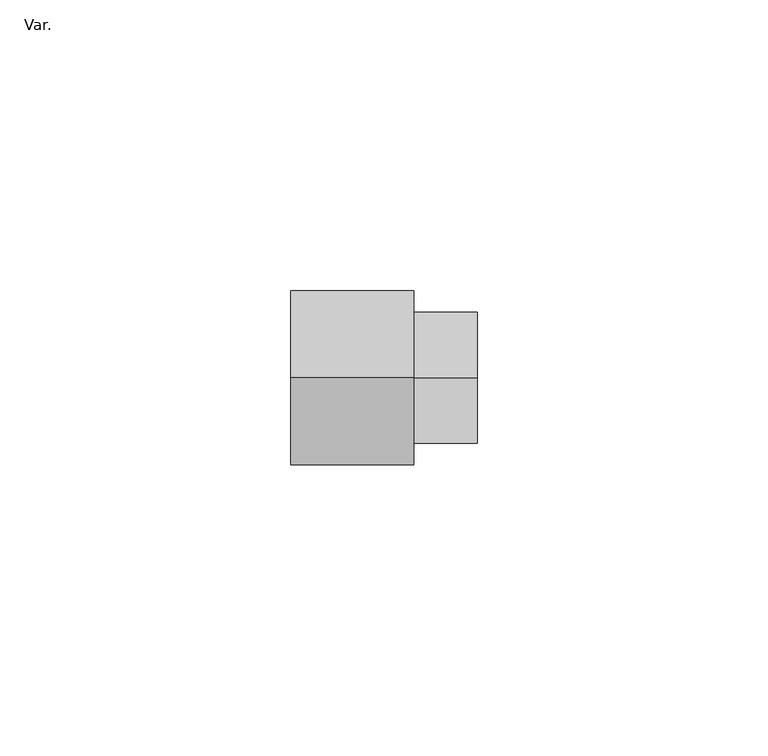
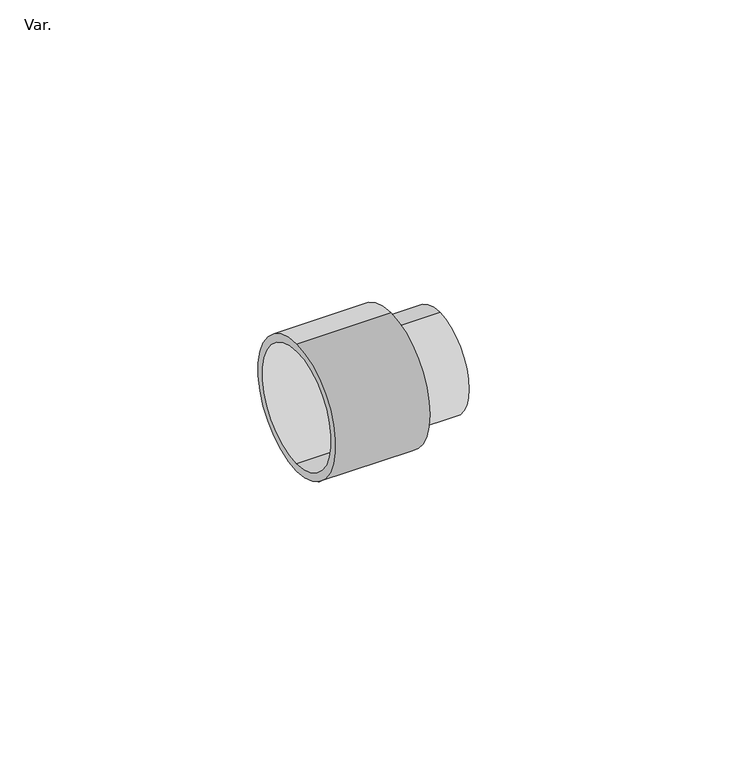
"""IFC4 building model written with IfcOpenShell, lengths in millimetres: pipe fitting geometry, AmancoWavin_ConexõesdeTubos_K5ZNãoUsarConectorMódulodeDistribuição : Var.."""

import ifcopenshell
import ifcopenshell.guid

model = None  # the IFC model being written
_history = None  # IfcOwnerHistory: only IFC2X3 demands one
_inside = {}  # id of a spatial element -> (the spatial element, [elements in it])
_under = {}  # id of a project, library or spatial element -> (it, [spatial elements below it])
_declared = {}  # id of a project -> (the project, [libraries it declares])
_typed = {}  # id of a type object -> (the type object, [elements of that type])
_made_of = {}  # id of a material, layer set ... -> (it, [elements and type objects made of it])


def new_model(schema):
    """Start an empty IFC model of exactly this schema.

    Asked for "IFC4X3", IfcOpenShell would pick the latest addendum, in which some entities
    have other attributes; the version numbers below select the first issue.
    IFC2X3 requires an IfcOwnerHistory on every rooted entity: one is made here for all.
    """
    global model, _history
    if schema == "IFC4X3":
        model = ifcopenshell.file(schema_version=(4, 3, 0, 0))
    else:
        model = ifcopenshell.file(schema=schema)
    _inside.clear()
    _under.clear()
    _declared.clear()
    _typed.clear()
    _made_of.clear()
    _history = None
    if model.schema == "IFC2X3":
        org = make("IfcOrganization", Name="unknown")
        user = make(
            "IfcPersonAndOrganization",
            ThePerson=make("IfcPerson", FamilyName="unknown"),
            TheOrganization=org,
        )
        app = make(
            "IfcApplication",
            ApplicationDeveloper=org,
            Version="unknown",
            ApplicationFullName="unknown",
            ApplicationIdentifier="unknown",
        )
        _history = make(
            "IfcOwnerHistory",
            OwningUser=user,
            OwningApplication=app,
            ChangeAction="ADDED",
            CreationDate=0,
        )
    return model


def make(cls, **values):
    """One entity of the class cls with the attributes given. An attribute that is None is left unset."""
    return model.create_entity(
        cls, **{name: value for name, value in values.items() if value is not None}
    )


def rooted(cls, **values):
    """An entity with a GlobalId (a new one), such as an element, a storey or a relation."""
    return make(cls, GlobalId=ifcopenshell.guid.new(), OwnerHistory=_history, **values)


def si_unit(unit_type, name, prefix=None):
    """IfcSIUnit, for example si_unit("LENGTHUNIT", "METRE", prefix="MILLI")."""
    return make("IfcSIUnit", UnitType=unit_type, Prefix=prefix, Name=name)


def assignment(units):
    """IfcUnitAssignment: the units of a project."""
    return None if units is None else make("IfcUnitAssignment", Units=units)


def point(xyz):
    """IfcCartesianPoint."""
    return None if xyz is None else make("IfcCartesianPoint", Coordinates=xyz)


def direction(xyz):
    """IfcDirection."""
    return None if xyz is None else make("IfcDirection", DirectionRatios=xyz)


def frame(location, z_axis=None, x_axis=None):
    """IfcAxis2Placement3D, a coordinate frame: its origin and axes. An axis left out is left unset."""
    return make(
        "IfcAxis2Placement3D",
        Location=point(location),
        Axis=direction(z_axis),
        RefDirection=direction(x_axis),
    )


def frame_2d(location, x_axis=None):
    """IfcAxis2Placement2D, a coordinate frame in the plane: its origin and x axis."""
    return make(
        "IfcAxis2Placement2D", Location=point(location), RefDirection=direction(x_axis)
    )


def origin():
    """The frame at (0, 0, 0) with its axes left unset."""
    return frame((0.0, 0.0, 0.0))


def origin_2d():
    """The frame at (0, 0) in the plane with its x axis left unset."""
    return frame_2d((0.0, 0.0))


def place(relative_to, where):
    """IfcLocalPlacement: puts the frame where relative to a parent placement (None: the world)."""
    return make(
        "IfcLocalPlacement", PlacementRelTo=relative_to, RelativePlacement=where
    )


def context(
    kind, dimensions, precision=None, world=None, true_north=None, identifier=None
):
    """IfcGeometricRepresentationContext, for example the 3D "Model" context."""
    return make(
        "IfcGeometricRepresentationContext",
        ContextIdentifier=identifier,
        ContextType=kind,
        CoordinateSpaceDimension=dimensions,
        Precision=precision,
        WorldCoordinateSystem=world,
        TrueNorth=true_north,
    )


def project(units=None, contexts=None):
    """IfcProject with its units and contexts."""
    return rooted(
        "IfcProject",
        Name="project",
        RepresentationContexts=contexts,
        UnitsInContext=assignment(units),
    )


def spatial(cls, under=None, at=None, **own):
    """A site, building, storey or space (cls), placed at a placement, below another one or the project."""
    s = rooted(cls, ObjectPlacement=at, **own)
    if under is not None:
        _under.setdefault(under.id(), (under, []))[1].append(s)
    return s


def polyline(points):
    """IfcPolyline through the points."""
    return make("IfcPolyline", Points=[point(p) for p in points])


def circle_curve(where, radius):
    """IfcCircle in the frame where."""
    return make("IfcCircle", Position=where, Radius=radius)


def trimmed(basis, trim1, trim2, sense, master):
    """IfcTrimmedCurve: the piece of a basis curve between two trims."""
    return make(
        "IfcTrimmedCurve",
        BasisCurve=basis,
        Trim1=trim1,
        Trim2=trim2,
        SenseAgreement=sense,
        MasterRepresentation=master,
    )


def segment(curve, same_sense, transition):
    """IfcCompositeCurveSegment."""
    return make(
        "IfcCompositeCurveSegment",
        Transition=transition,
        SameSense=same_sense,
        ParentCurve=curve,
    )


def composite_curve(segments, self_intersect=None):
    """IfcCompositeCurve: segments joined end to end."""
    return make("IfcCompositeCurve", Segments=segments, SelfIntersect=self_intersect)


def outline(outer, holes=None, kind="AREA"):
    """IfcArbitraryClosedProfileDef: a profile drawn as a closed curve; with holes, ...WithVoids."""
    if holes is None:
        return make("IfcArbitraryClosedProfileDef", ProfileType=kind, OuterCurve=outer)
    return make(
        "IfcArbitraryProfileDefWithVoids",
        ProfileType=kind,
        OuterCurve=outer,
        InnerCurves=holes,
    )


def extrude(swept, where, along, depth):
    """IfcExtrudedAreaSolid: the profile swept, set in the frame where, extruded along a direction by depth."""
    return make(
        "IfcExtrudedAreaSolid",
        SweptArea=swept,
        Position=where,
        ExtrudedDirection=direction(along),
        Depth=depth,
    )


def shape(context_of_items, identifier, shape_type, items):
    """IfcShapeRepresentation: the items that make up one representation, for example the "Body"."""
    return make(
        "IfcShapeRepresentation",
        ContextOfItems=context_of_items,
        RepresentationIdentifier=identifier,
        RepresentationType=shape_type,
        Items=items,
    )


def source(mapping_origin, context_of_items, identifier, shape_type, items):
    """IfcRepresentationMap: a shape defined once, which mapped items show again and again."""
    return make(
        "IfcRepresentationMap",
        MappingOrigin=mapping_origin,
        MappedRepresentation=shape(context_of_items, identifier, shape_type, items),
    )


def transform(
    local_origin,
    x_axis=None,
    y_axis=None,
    z_axis=None,
    scale=None,
    scale2=None,
    scale3=None,
    uniform=True,
):
    """IfcCartesianTransformationOperator3D, or its non-uniform kind. x_axis, y_axis, z_axis: its Axis1, 2, 3."""
    if uniform:
        return make(
            "IfcCartesianTransformationOperator3D",
            Axis1=direction(x_axis),
            Axis2=direction(y_axis),
            LocalOrigin=point(local_origin),
            Scale=scale,
            Axis3=direction(z_axis),
        )
    return make(
        "IfcCartesianTransformationOperator3DnonUniform",
        Axis1=direction(x_axis),
        Axis2=direction(y_axis),
        LocalOrigin=point(local_origin),
        Scale=scale,
        Axis3=direction(z_axis),
        Scale2=scale2,
        Scale3=scale3,
    )


def mapped(mapping_source, mapping_target):
    """IfcMappedItem: shows the shape of a source again, moved by a transform."""
    return make(
        "IfcMappedItem", MappingSource=mapping_source, MappingTarget=mapping_target
    )


def made_of(thing, what):
    """Note that an element or type object is made of a material, layer set ...; save() writes the relation."""
    if what is not None:
        _made_of.setdefault(what.id(), (what, []))[1].append(thing)
    return thing


def element(
    cls,
    number,
    at=None,
    inside=None,
    cuts=None,
    type_object=None,
    material=None,
    context=None,
    identifier="Body",
    shape_type=None,
    held_by="IfcProductDefinitionShape",
    body=None,
    shapes=None,
    **own,
):
    """One element of the class cls, such as IfcWall. Its Tag is "e" and its number.

    at: its placement. inside: the storey or other place that contains it. cuts: it is an
    opening in that element (IfcRelVoidsElement). A single representation is given by context,
    identifier, shape_type and body (its items); several are given by shapes. held_by: the class
    of the entity that holds the representations. save() writes the other relations.
    """
    e = rooted(cls, Tag="e%d" % number, ObjectPlacement=at, **own)
    if body is not None:
        shapes = [shape(context, identifier, shape_type, body)]
    if shapes is not None:
        e.Representation = make(held_by, Representations=shapes)
    if inside is not None:
        _inside.setdefault(inside.id(), (inside, []))[1].append(e)
    if cuts is not None:
        rooted(
            "IfcRelVoidsElement", RelatingBuildingElement=cuts, RelatedOpeningElement=e
        )
    if type_object is not None:
        _typed.setdefault(type_object.id(), (type_object, []))[1].append(e)
    return made_of(e, material)


def aggregate(whole, parts):
    """IfcRelAggregates: a whole, such as a stair, and the parts it consists of."""
    return rooted("IfcRelAggregates", RelatingObject=whole, RelatedObjects=parts)


def save(model, path):
    """Write the relations noted so far, then the file.

    IfcRelAggregates (storeys below a building ...), IfcRelContainedInSpatialStructure (elements
    in a storey), IfcRelDefinesByType, IfcRelAssociatesMaterial and IfcRelDeclares: one each for
    every whole, place, type object, material and project.
    """
    for whole, parts in _under.values():
        aggregate(whole, parts)
    for where, things in _inside.values():
        rooted(
            "IfcRelContainedInSpatialStructure",
            RelatedElements=things,
            RelatingStructure=where,
        )
    for kind, things in _typed.values():
        rooted("IfcRelDefinesByType", RelatedObjects=things, RelatingType=kind)
    for what, things in _made_of.values():
        rooted("IfcRelAssociatesMaterial", RelatedObjects=things, RelatingMaterial=what)
    for by, libraries in _declared.values():
        rooted("IfcRelDeclares", RelatingContext=by, RelatedDefinitions=libraries)
    model.write(path)


def plane_surface(at):
    """IfcPlane: the flat surface through the origin of the frame at, square to its z axis."""
    return make("IfcPlane", Position=at)


def cylinder_surface(at, radius):
    """IfcCylindricalSurface: all points at the distance radius from the z axis of the frame at."""
    return make("IfcCylindricalSurface", Position=at, Radius=radius)


def revolved_surface(curve, axis_point, axis_direction):
    """IfcSurfaceOfRevolution: the curve turned about the line through axis_point along axis_direction."""
    return make(
        "IfcSurfaceOfRevolution",
        SweptCurve=make("IfcArbitraryOpenProfileDef", ProfileType="CURVE", Curve=curve),
        AxisPosition=make("IfcAxis1Placement", Location=point(axis_point), Axis=direction(axis_direction)),
    )


def advanced_brep(points, edges, surfaces, faces):
    """IfcAdvancedBrep: a solid bounded by faces that lie on surfaces and meet in shared edges.

    An edge is (start, end): straight between two places in points (the first is 0);
    or (start, end, curve); or (start, end, curve, False) where it runs against its curve.
    A face is (place in surfaces, loops), or (place, loops, False) where it looks against
    its surface's normal. A loop lists edges by number (the first is 1), with a minus sign
    where the edge is run from its end to its start. The first loop is the outer one.
    """
    corners = [point(p) for p in points]
    vertices = [make("IfcVertexPoint", VertexGeometry=c) for c in corners]
    made = []
    for start, end, *more in edges:
        made.append(
            make(
                "IfcEdgeCurve",
                EdgeStart=vertices[start],
                EdgeEnd=vertices[end],
                EdgeGeometry=more[0] if more else make("IfcPolyline", Points=[corners[start], corners[end]]),
                SameSense=more[1] if len(more) > 1 else True,
            )
        )
    hull = []
    for where, loops, *sense in faces:
        bounds = []
        for j, loop in enumerate(loops):
            ring = [make("IfcOrientedEdge", EdgeElement=made[abs(k) - 1], Orientation=k > 0) for k in loop]
            bounds.append(
                make(
                    "IfcFaceOuterBound" if j == 0 else "IfcFaceBound",
                    Bound=make("IfcEdgeLoop", EdgeList=ring),
                    Orientation=True,
                )
            )
        hull.append(make("IfcAdvancedFace", Bounds=bounds, FaceSurface=surfaces[where], SameSense=sense[0] if sense else True))
    return make("IfcAdvancedBrep", Outer=make("IfcClosedShell", CfsFaces=hull))


def var_72aea8ce(model_context):
    return source(origin(), model_context, "Body", "SolidModel", [
        extrude(outline(composite_curve([segment(trimmed(circle_curve(origin_2d(), 11.3), [point((0.0, -11.3))], [point((0.0, 11.3))], False, "CARTESIAN"), True, "CONTINUOUS"), segment(trimmed(circle_curve(origin_2d(), 11.3), [point((0.0, 11.3))], [point((0.0, -11.3))], False, "CARTESIAN"), True, "CONTINUOUS")], self_intersect=False)), frame((-18.0, 0.0, 0.0), z_axis=(1.0, 0.0, 0.0), x_axis=(0.0, 1.0, 0.0)), (0.0, 0.0, 1.0), 18.0),
        advanced_brep(
        [(-32.0, 0.0, -15.0), (-32.0, 0.0, 15.0), (-32.0, 0.0, 13.25), (-32.0, 0.0, -13.25), (-10.9146243, 0.0, -15.0), (-10.9146243, 0.0, 15.0), (-18.0, 0.0, 13.25), (-18.0, 0.0, -13.25)],
        [
            (0, 1, circle_curve(frame((-32.0, 0.0, 0.0), z_axis=(-1.0, 0.0, 0.0), x_axis=(0.0, 0.0, 1.0)), 15.0)),
            (1, 0, circle_curve(frame((-32.0, 0.0, 0.0), z_axis=(-1.0, 0.0, 0.0), x_axis=(0.0, 0.0, 1.0)), 15.0)),
            (2, 3, circle_curve(frame((-32.0, 0.0, 0.0), z_axis=(1.0, 0.0, 0.0), x_axis=(0.0, 0.0, -1.0)), 13.25)),
            (3, 2, circle_curve(frame((-32.0, 0.0, 0.0), z_axis=(1.0, 0.0, 0.0), x_axis=(0.0, 0.0, -1.0)), 13.25)),
            (4, 5, circle_curve(frame((-10.9146243, 0.0, 0.0), z_axis=(1.0, 0.0, 0.0), x_axis=(0.0, 0.0, 1.0)), 15.0)),
            (5, 4, circle_curve(frame((-10.9146243, 0.0, 0.0), z_axis=(1.0, 0.0, 0.0), x_axis=(0.0, 0.0, 1.0)), 15.0)),
            (0, 4),
            (5, 1),
            (6, 7, circle_curve(frame((-18.0, 0.0, 0.0), z_axis=(-1.0, 0.0, 0.0), x_axis=(0.0, 0.0, -1.0)), 13.25)),
            (7, 6, circle_curve(frame((-18.0, 0.0, 0.0), z_axis=(-1.0, 0.0, 0.0), x_axis=(0.0, 0.0, -1.0)), 13.25)),
            (7, 3),
            (2, 6),
        ],
        [
            plane_surface(frame((-32.0, 0.0, 15.0), z_axis=(-1.0, 0.0, 0.0), x_axis=(0.0, 1.0, 0.0))),
            plane_surface(frame((-10.9146243, 0.0, 15.0), z_axis=(1.0, 0.0, 0.0), x_axis=(0.0, -1.0, 0.0))),
            cylinder_surface(frame((-10.9146243, 0.0, 0.0), z_axis=(-1.0, 0.0, 0.0), x_axis=(0.0, 0.0, 1.0)), 15.0),
            plane_surface(frame((-18.0, 0.0, -13.25), z_axis=(-1.0, 0.0, 0.0), x_axis=(0.0, 1.0, 0.0))),
            revolved_surface(polyline([(-18.0, 0.0, -13.25), (-32.0, 0.0, -13.25)]), (-32.0, 0.0, 0.0), (1.0, 0.0, 0.0)),
        ],
        [
            (0, [[1, 2], [3, 4]]),
            (1, [[5, 6]]),
            (2, [[-1, 7, -6, 8]]),
            (2, [[-2, -8, -5, -7]]),
            (3, [[9, 10]]),
            (4, [[-10, 11, -3, 12]]),
            (4, [[-9, -12, -4, -11]]),
        ],
    ),
    ])


if __name__ == "__main__":
    model = new_model("IFC4")
    model_context = context("Model", 3, world=origin())
    ifc_project = project(units=[si_unit("LENGTHUNIT", "METRE", prefix="MILLI")], contexts=[model_context])
    site = spatial("IfcSite", under=ifc_project)
    building = spatial("IfcBuilding", under=site)
    placement = place(None, origin())
    var_shape = var_72aea8ce(model_context)
    element("IfcPipeFitting", 1, ObjectType="AmancoWavin_ConexõesdeTubos_K5ZNãoUsarConectorMódulodeDistribuição : Var.", at=placement, inside=building, context=model_context, shape_type="MappedRepresentation", body=[
        mapped(var_shape, transform((0.0, 0.0, 0.0), x_axis=(1.0, 0.0, 0.0), y_axis=(0.0, 1.0, 0.0), z_axis=(0.0, 0.0, 1.0))),
    ])
    save(model, "model.ifc")
